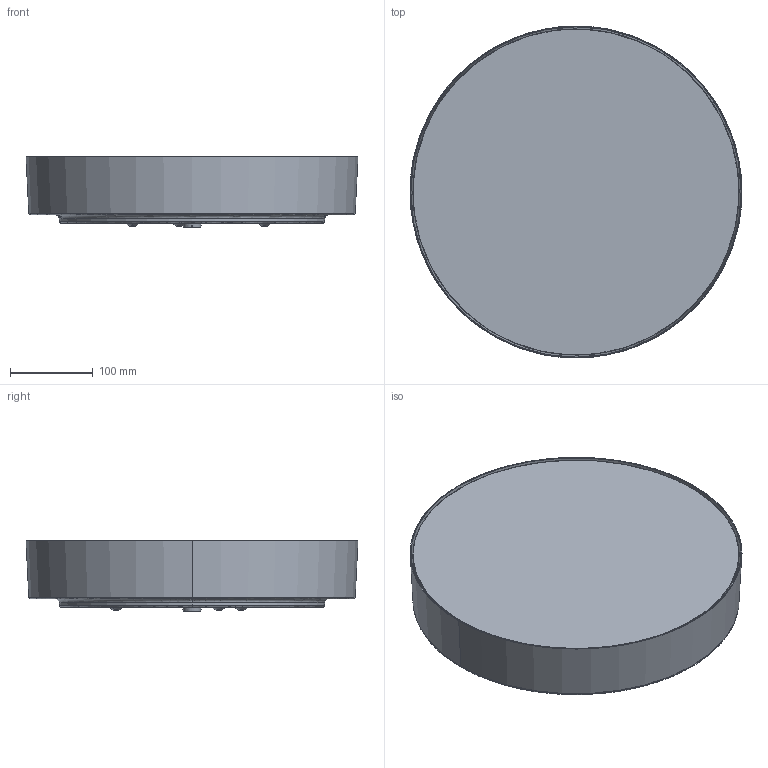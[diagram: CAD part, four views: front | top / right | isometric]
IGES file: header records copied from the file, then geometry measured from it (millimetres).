
Start section: SolidWorks IGES file using analytic representation for surfaces
Global section: file name: E:\3D lampy\Arena\Arena_6724,6725,6770.IGS; native system: SolidWorks 2017; preprocessor: SolidWorks 2017; author: joanna.pastusinska; date: 180613.125819; units: millimetre
Bounding box: 402 x 402 x 86.51 mm (x, y, z)
Surface area: 769649.8 mm2 (no closed solid volume)
Topology: 0 solids, 0 shells, 799 faces, 9304 edges, 9298 vertices
Faces by surface type: bspline 517, revolution 282
